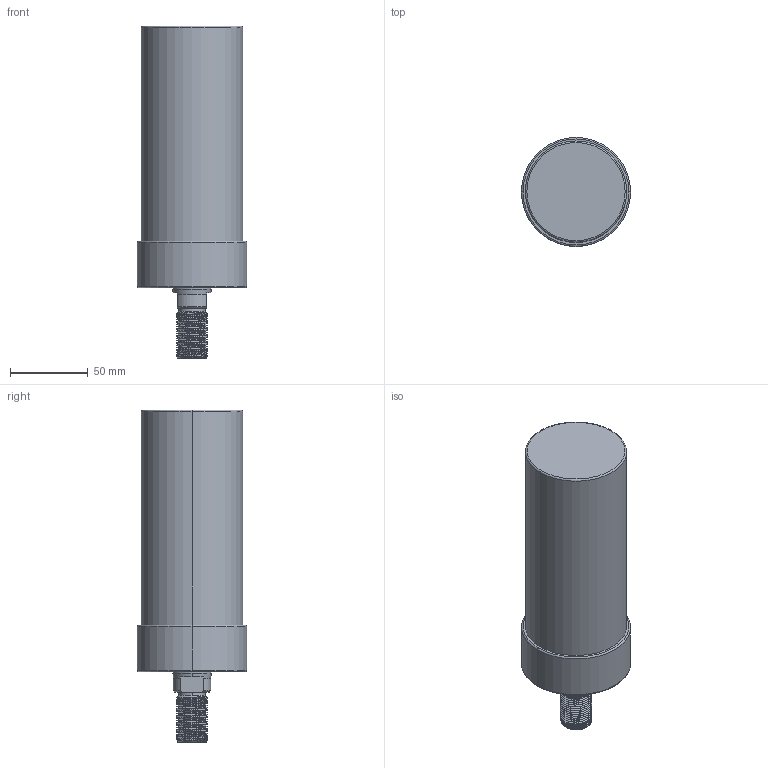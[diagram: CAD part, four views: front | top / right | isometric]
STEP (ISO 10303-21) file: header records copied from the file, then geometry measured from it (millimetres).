
FILE_DESCRIPTION (( 'STEP AP203' ), '1' );
FILE_NAME ('CLLU-065GT-105.STEP', '2020-01-16T02:13:29', ( '' ), ( '' ), 'SwSTEP 2.0', 'SolidWorks 2015', '' );
FILE_SCHEMA (( 'CONFIG_CONTROL_DESIGN' ));
Length unit declared in the file: millimetre
Products named in the file (1): CLLU-065GT-105
Bounding box: 70 x 70 x 213 mm (x, y, z)
Volume: 586097.2 mm3; surface area: 47625.8 mm2
Topology: 1 solids, 1 shells, 105 faces, 267 edges, 165 vertices
Faces by surface type: cylinder 60, cone 26, plane 11, torus 6, bspline 2
Entity records: 5359 total; most frequent: CARTESIAN_POINT 3001, ORIENTED_EDGE 518, DIRECTION 448, EDGE_CURVE 259, AXIS2_PLACEMENT_3D 180, VERTEX_POINT 165, EDGE_LOOP 114, FACE_OUTER_BOUND 105
